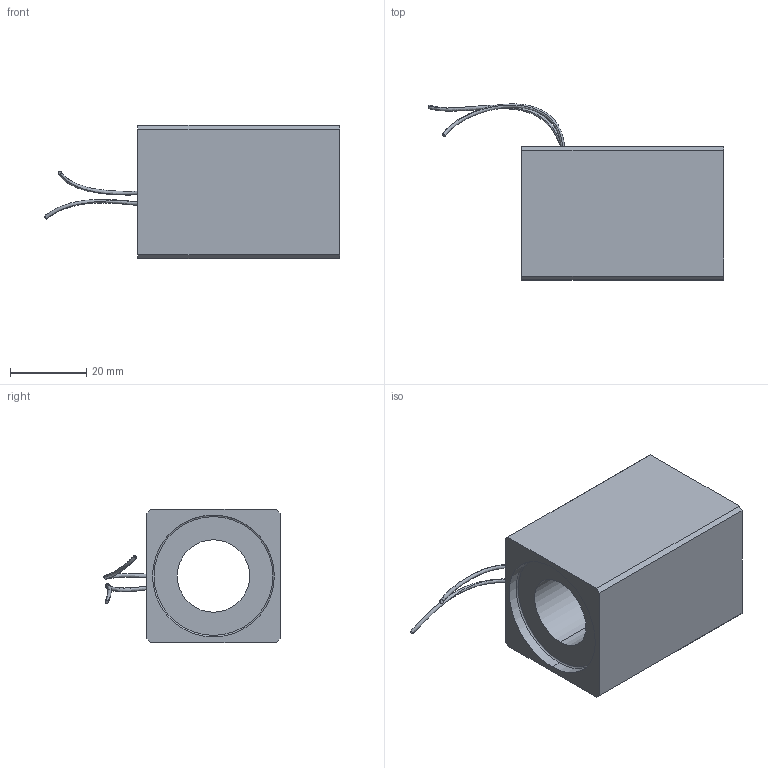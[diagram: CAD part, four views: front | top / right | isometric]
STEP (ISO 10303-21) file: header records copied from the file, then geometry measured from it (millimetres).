
FILE_DESCRIPTION (( 'STEP AP214' ), '1' );
FILE_NAME ('NLS35_19x50.STEP', '2015-07-28T14:03:36', ( '' ), ( '' ), 'SwSTEP 2.0', 'SolidWorks 2014', '' );
FILE_SCHEMA (( 'AUTOMOTIVE_DESIGN' ));
Length unit declared in the file: millimetre
Products named in the file (2): NLS35_19x50
Bounding box: 77.53 x 46.27 x 35 mm (x, y, z)
Volume: 47733.7 mm3; surface area: 13372.7 mm2
Topology: 3 solids, 5 shells, 62 faces, 130 edges, 84 vertices
Faces by surface type: plane 24, cylinder 20, bspline 10, torus 6, cone 2
Entity records: 2971 total; most frequent: CARTESIAN_POINT 874, DIRECTION 302, ORIENTED_EDGE 260, EDGE_CURVE 130, AXIS2_PLACEMENT_3D 128, VERTEX_POINT 84, EDGE_LOOP 74, CIRCLE 74
